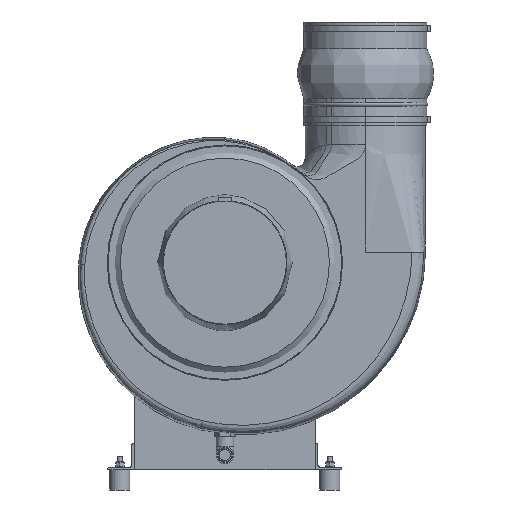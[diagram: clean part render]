
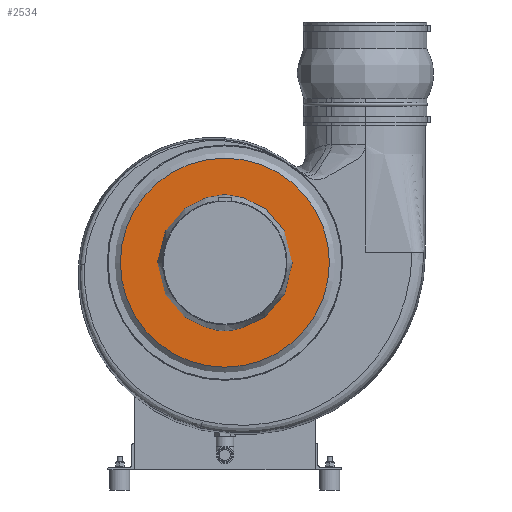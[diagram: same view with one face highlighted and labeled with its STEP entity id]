
A CAD part, front view. The second image highlights one B-rep face of the part: STEP entity #2534.
In plain terms, the highlighted planar face has unit normal (0, -1, 0) as drawn and (-1, 0, 0) by its records, which use the part's own axes.
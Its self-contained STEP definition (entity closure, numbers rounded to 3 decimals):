
#2534 = ADVANCED_FACE( '', ( #5756, #5757 ), #5758, .T. );
#5756 = FACE_BOUND( '', #14834, .T. );
#5757 = FACE_OUTER_BOUND( '', #14835, .T. );
#5758 = PLANE( '', #14836 );
#14834 = EDGE_LOOP( '', ( #36700 ) );
#14835 = EDGE_LOOP( '', ( #36701 ) );
#14836 = AXIS2_PLACEMENT_3D( '', #36702, #36703, #36704 );
#36700 = ORIENTED_EDGE( '', *, *, #44922, .F. );
#36701 = ORIENTED_EDGE( '', *, *, #45918, .T. );
#36702 = CARTESIAN_POINT( '', ( 40., 0., 0. ) );
#36703 = DIRECTION( '', ( -1., 0., 0. ) );
#36704 = DIRECTION( '', ( 0., 0., 1. ) );
#44922 = EDGE_CURVE( '', #49397, #49397, #49398, .T. );
#45918 = EDGE_CURVE( '', #51056, #51056, #51057, .T. );
#49397 = VERTEX_POINT( '', #56585 );
#49398 = CIRCLE( '', #56586, 90. );
#51056 = VERTEX_POINT( '', #61666 );
#51057 = CIRCLE( '', #61667, 156.338 );
#56585 = CARTESIAN_POINT( '', ( 40., 0., 90. ) );
#56586 = AXIS2_PLACEMENT_3D( '', #73024, #73025, #73026 );
#61666 = CARTESIAN_POINT( '', ( 40., 0., 156.338 ) );
#61667 = AXIS2_PLACEMENT_3D( '', #74045, #74046, #74047 );
#73024 = CARTESIAN_POINT( '', ( 40., 0., 0. ) );
#73025 = DIRECTION( '', ( -1., 0., 0. ) );
#73026 = DIRECTION( '', ( 0., 0., 1. ) );
#74045 = CARTESIAN_POINT( '', ( 40., 0., 0. ) );
#74046 = DIRECTION( '', ( -1., 0., 0. ) );
#74047 = DIRECTION( '', ( 0., 0., 1. ) );
